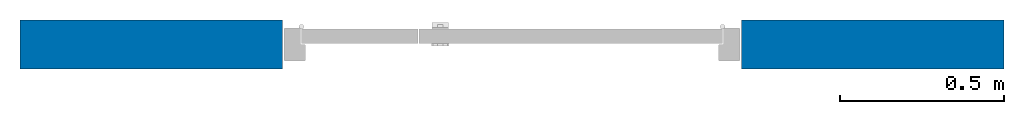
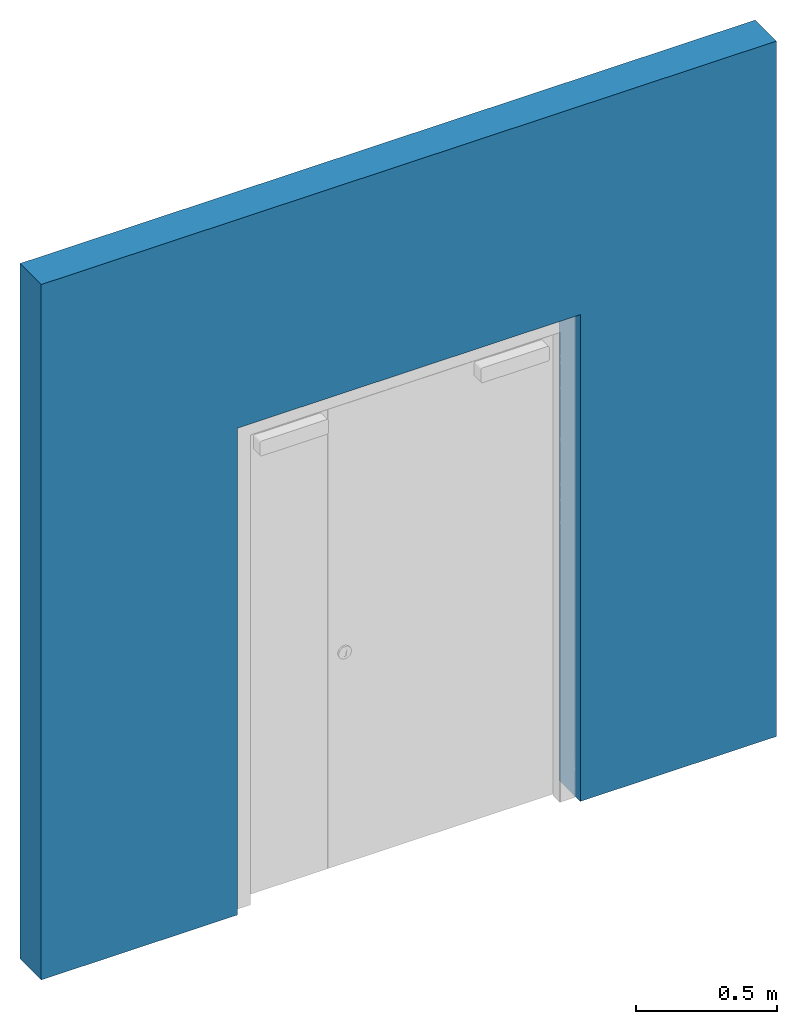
# One storey, incomplete: 1 wall, 1 opening.
"""IFC2X3 building model written with IfcOpenShell, lengths in millimetres."""

from ifc_helpers import new_model, entity, si_unit, converted_unit, derived_unit, direction, frame, frame_2d, origin, place, context, subcontext, project, spatial, rectangle, extrude, material, layer, layer_set, layer_usage, type_object, element, save


model = new_model("IFC2X3")

# Units and contexts
model_context = context("Model", 3, precision=0.01, world=origin(), true_north=direction((6.12303176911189e-17, 1.0)))
body_context = subcontext(model_context, "Body", "Model", "MODEL_VIEW")
ifc_project = project(units=[si_unit("LENGTHUNIT", "METRE", prefix="MILLI"), si_unit("AREAUNIT", "SQUARE_METRE"), si_unit("VOLUMEUNIT", "CUBIC_METRE"), converted_unit("PLANEANGLEUNIT", "DEGREE", entity("IfcRatioMeasure", 0.0174532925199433), si_unit("PLANEANGLEUNIT", "RADIAN"), dimensions=[0, 0, 0, 0, 0, 0, 0]), si_unit("MASSUNIT", "GRAM", prefix="KILO"), si_unit("TIMEUNIT", "SECOND"), si_unit("FREQUENCYUNIT", "HERTZ"), si_unit("THERMODYNAMICTEMPERATUREUNIT", "DEGREE_CELSIUS"), derived_unit("THERMALTRANSMITTANCEUNIT", [(si_unit("MASSUNIT", "GRAM", prefix="KILO"), 1), (si_unit("THERMODYNAMICTEMPERATUREUNIT", "KELVIN"), -1), (si_unit("TIMEUNIT", "SECOND"), -3)]), derived_unit("VOLUMETRICFLOWRATEUNIT", [(si_unit("LENGTHUNIT", "METRE"), 3), (si_unit("TIMEUNIT", "SECOND"), -1)]), si_unit("ELECTRICCURRENTUNIT", "AMPERE"), si_unit("ELECTRICVOLTAGEUNIT", "VOLT"), si_unit("POWERUNIT", "WATT"), si_unit("FORCEUNIT", "NEWTON", prefix="KILO"), si_unit("ILLUMINANCEUNIT", "LUX"), si_unit("LUMINOUSFLUXUNIT", "LUMEN"), si_unit("LUMINOUSINTENSITYUNIT", "CANDELA"), si_unit("PRESSUREUNIT", "PASCAL")], contexts=[model_context])

# Site, building, storey
site_placement = place(None, origin())
site = spatial("IfcSite", under=ifc_project, at=site_placement, Name="Default", CompositionType="ELEMENT")
building_placement = place(site_placement, origin())
building = spatial("IfcBuilding", under=site, at=building_placement, CompositionType="ELEMENT")
storey_placement = place(building_placement, origin())
storey = spatial("IfcBuildingStorey", under=building, at=storey_placement, Name="Level 1", CompositionType="ELEMENT", Elevation=0.0)

# Wall, opening
ifc_material = material(Name="nbl_Concept")
ifc_layer = layer(ifc_material, 150.0)
ifc_layer_set = layer_set([ifc_layer], Name="Basic Wall:NBS_Int_Concept")
ifc_layer_usage = layer_usage(ifc_layer_set, "AXIS2", "POSITIVE", -75.0)
wall_type = type_object("IfcWallType", Name="Basic Wall:NBS_Int_Concept", PredefinedType="STANDARD", material=ifc_layer_set)
wall_placement = place(storey_placement, frame((-1500.0, 0.0, 0.0)))
wall = element("IfcWallStandardCase", 1, at=wall_placement, inside=storey, type_object=wall_type, material=ifc_layer_usage, Name="Basic Wall:NBS_Int_Concept:2301", ObjectType="Basic Wall:NBS_Int_Concept:2340", context=body_context, shape_type="SweptSolid", body=[
    extrude(rectangle(XDim=3000.0, YDim=150.0, at=frame_2d((1500.0, 0.0), x_axis=(-1.0, 0.0))), origin(), (0.0, 0.0, 1.0), 3000.0),
])
opening_placement = place(wall_placement, frame((800.0, -75.0, 0.0)))
element("IfcOpeningElement", 2, at=opening_placement, cuts=wall, Name="NBS_AssaAbloyLtd_DrsetSym_AASDMetalPlantRoomDoor_Unequal:1400x2100mm:1", ObjectType="Opening", context=body_context, shape_type="SweptSolid", body=[
    extrude(rectangle(XDim=2100.0, YDim=1400.0, at=frame_2d((1050.0, 700.0), x_axis=(1.0, 0.0))), frame((0.0, 0.0, 0.0), z_axis=(0.0, 1.0, 0.0), x_axis=(0.0, 0.0, 1.0)), (0.0, 0.0, 1.0), 150.0),
])

save(model, "model.ifc")
